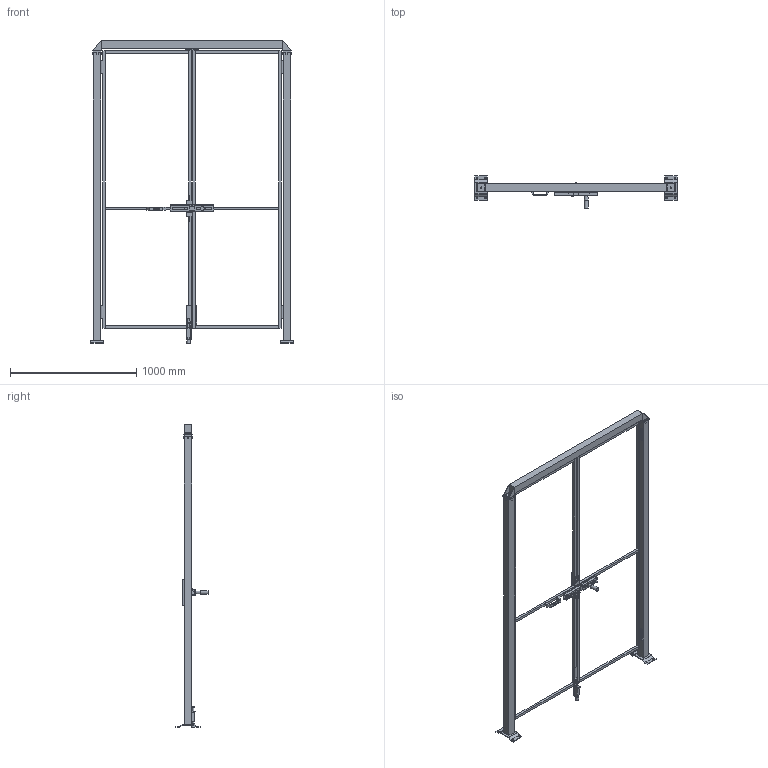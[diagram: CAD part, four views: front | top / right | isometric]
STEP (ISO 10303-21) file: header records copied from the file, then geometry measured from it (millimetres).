
FILE_DESCRIPTION(/* description */ (''),/* implementation_level */ '2;1');
FILE_NAME(/* name */ 'C:\SafeGuarding\ELABORATI\VZOR§DVOUKŘÍDLÉ_2025-02-03-09-52-58.stp',/* time_stamp */ '2025-02-03T09:53:01+01:00',/* author */ ('admin'),/* organization */ (''),/* preprocessor_version */ 'ST-DEVELOPER v18.1',/* originating_system */ 'AutoCAD Mechanical',/* authorisation */ '');
FILE_SCHEMA (('AUTOMOTIVE_DESIGN { 1 0 10303 214 3 1 1 }'));
Length unit declared in the file: millimetre
Products named in the file (5): Product; *U6; DATI_PORTA; P_VFMA.ME60SDU.2320; R_VFPA.REPE20.07002200
Assembly tree (6 placements, depth 2):
  Product
    R_VFPA.REPE20.07002200  x2
    P_VFMA.ME60SDU.2320  x2
    *U6
    DATI_PORTA
Bounding box: 1605 x 255.82 x 2400.5 mm (x, y, z)
Volume: 28099034.6 mm3; surface area: 3068567.4 mm2
Topology: 35 solids, 46 shells, 428 faces, 1342 edges, 1264 vertices
Faces by surface type: plane 384, cylinder 42, cone 2
Full cylindrical faces by diameter (mm): 11 x25, 12 x1, 14 x2, 24 x1, 30 x1
Entity records: 12016 total; most frequent: CARTESIAN_POINT 2499, DIRECTION 1820, ORIENTED_EDGE 1748, EDGE_CURVE 923, LINE 842, VECTOR 842, VERTEX_POINT 651, AXIS2_PLACEMENT_3D 489
